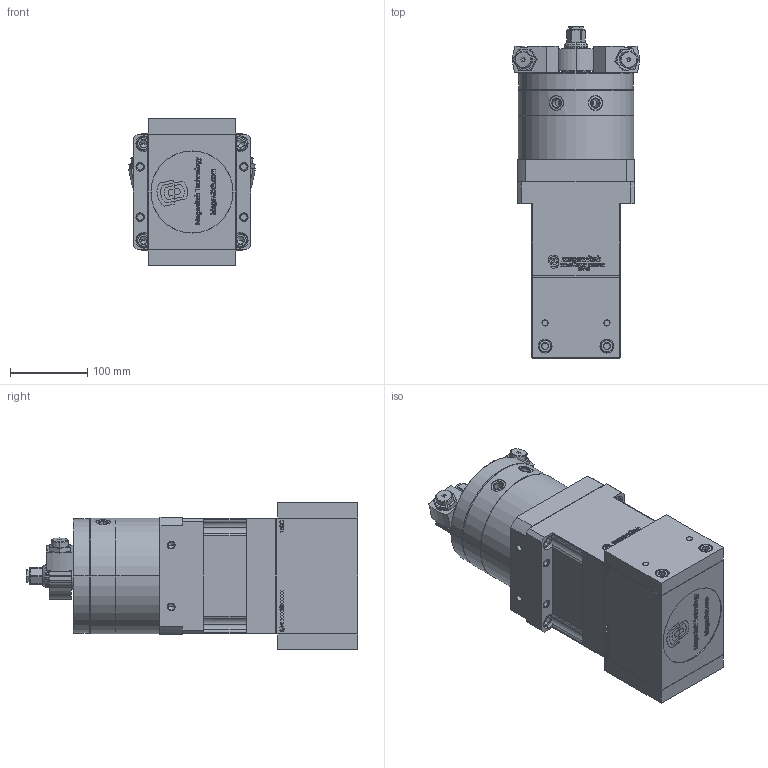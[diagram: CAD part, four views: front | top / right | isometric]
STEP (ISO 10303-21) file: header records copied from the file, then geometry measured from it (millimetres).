
FILE_DESCRIPTION (( 'STEP AP203' ), '1' );
FILE_NAME ('81401737_CFM.STEP', '2026-02-17T18:14:02', ( '' ), ( '' ), 'SwSTEP 2.0', 'SolidWorks 2024', '' );
FILE_SCHEMA (( 'CONFIG_CONTROL_DESIGN' ));
Products named in the file (3): 81401737_CFM; 88002134; 80001737_CFM
Assembly tree (2 placements, depth 2):
  81401737_CFM
    80001737_CFM
    88002134
Bounding box: 164.12 x 429.22 x 190 mm (x, y, z)
Volume: 7189858.8 mm3; surface area: 438247.9 mm2
Topology: 23 solids, 28 shells, 2637 faces, 6847 edges, 4416 vertices
Faces by surface type: plane 1114, bspline 643, cylinder 564, cone 290, torus 26
Entity records: 112965 total; most frequent: CARTESIAN_POINT 53876, ORIENTED_EDGE 13606, DIRECTION 9808, EDGE_CURVE 6803, VERTEX_POINT 4416, LINE 3824, VECTOR 3824, AXIS2_PLACEMENT_3D 2992
